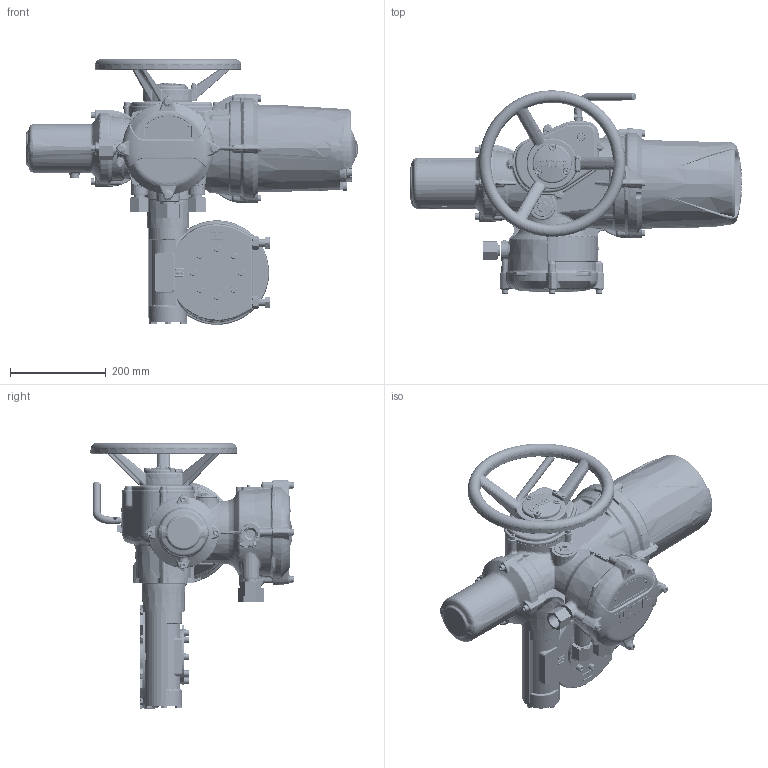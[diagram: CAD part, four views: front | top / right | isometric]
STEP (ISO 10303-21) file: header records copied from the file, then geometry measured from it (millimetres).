
FILE_DESCRIPTION( ( 'Unknown' ), '1' );
FILE_NAME( 'S:/DocsUnderChange/DrawingsFromMTMS/InstallationDrgs/Standardised drawings/IQ3/IWD/II1THWIWD4STD-1.stp', 'Unknown', ( 'Unknown' ), ( 'Unknown' ), 'PSStep 17.0.49', 'Unknown', ' ' );
FILE_SCHEMA( ( 'AUTOMOTIVE_DESIGN { 1 0 10303 214 1 1 1 1 }' ) );
Length unit declared in the file: millimetre
Products named in the file (9): II0-20LONG-std
Bounding box: 692.3 x 423.78 x 554.27 mm (x, y, z)
Volume: 59469.4 mm3; surface area: 1066700.5 mm2
Topology: 72 solids, 73 shells, 8718 faces, 22352 edges, 13579 vertices
Faces by surface type: plane 3687, bspline 2246, cylinder 1056, cone 811, torus 617, sphere 162, extrusion 103, revolution 21, offset 15
Full cylindrical faces by diameter (mm): 0.2 x1, 1.152 x1, 3 x12, 4 x2, 4.753 x1, 4.773 x1, 6 x10, 6.2 x1, 6.4 x1, 6.45 x5, 6.47 x5, 6.5 x1, 6.75 x1, 7 x4, 7.6 x4, 8 x38, 8.1 x9, 8.2 x1, 8.5 x24, 8.7 x8, 9 x8, 10 x1, 11.78 x1, 12 x1, 13 x28, 13.25 x4, 13.5 x16, 14 x6, 15.5 x1, 16 x6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
Entity records: 682617 total; most frequent: CARTESIAN_POINT 426376, ORIENTED_EDGE 42454, DIRECTION 33237, EDGE_CURVE 21227, VERTEX_POINT 13248, AXIS2_PLACEMENT_3D 12774, EDGE_LOOP 9520, FACE_OUTER_BOUND 9027
